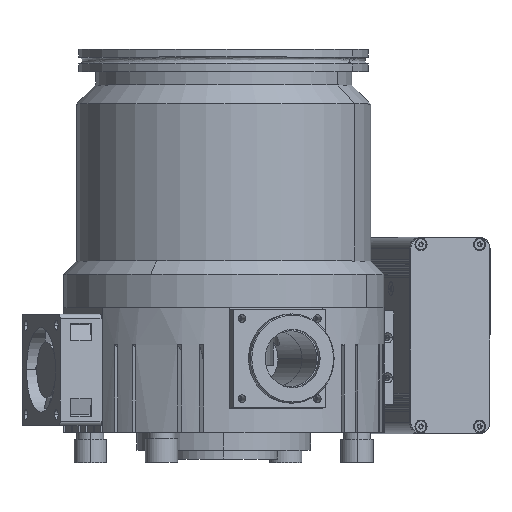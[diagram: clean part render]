
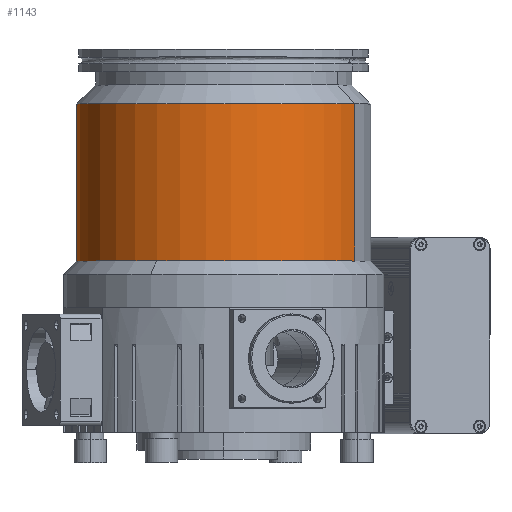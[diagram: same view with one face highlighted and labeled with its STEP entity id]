
A CAD part, top view. The second image highlights one B-rep face of the part: STEP entity #1143.
In plain terms, the highlighted cylindrical face has radius 66 mm (diameter 132 mm), a partial arc.
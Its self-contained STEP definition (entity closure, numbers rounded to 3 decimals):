
#1143 = ADVANCED_FACE ( 'NONE', ( #142187 ), #57621, .T. ) ;
#4741 = ORIENTED_EDGE ( 'NONE', *, *, #104922, .F. ) ;
#23566 = CARTESIAN_POINT ( 'NONE',  ( 0., 20.85, 0. ) ) ;
#30634 = AXIS2_PLACEMENT_3D ( 'NONE', #177406, #174435, #169392 ) ;
#34877 = LINE ( 'NONE', #133716, #109469 ) ;
#39551 = DIRECTION ( 'NONE',  ( 0., 0., -1. ) ) ;
#57621 = CYLINDRICAL_SURFACE ( 'NONE', #30634, 66. ) ;
#59546 = CARTESIAN_POINT ( 'NONE',  ( 0., 20.85, 66. ) ) ;
#63038 = DIRECTION ( 'NONE',  ( 0., -1., 0. ) ) ;
#72033 = ORIENTED_EDGE ( 'NONE', *, *, #150144, .T. ) ;
#75074 = CARTESIAN_POINT ( 'NONE',  ( 0., 91.3, 0. ) ) ;
#80909 = EDGE_CURVE ( 'NONE', #93742, #134119, #34877, .T. ) ;
#89496 = CARTESIAN_POINT ( 'NONE',  ( 0., 91.3, 66. ) ) ;
#91095 = DIRECTION ( 'NONE',  ( 0., 0., -1. ) ) ;
#91190 = CIRCLE ( 'NONE', #129142, 66. ) ;
#91710 = ORIENTED_EDGE ( 'NONE', *, *, #105425, .F. ) ;
#91908 = CARTESIAN_POINT ( 'NONE',  ( 0., 20.85, -66. ) ) ;
#93742 = VERTEX_POINT ( 'NONE', #89496 ) ;
#95726 = CARTESIAN_POINT ( 'NONE',  ( -66., 20.85, 0. ) ) ;
#101348 = EDGE_LOOP ( 'NONE', ( #110416, #72033, #162726, #4741, #91710 ) ) ;
#104922 = EDGE_CURVE ( 'NONE', #139059, #180526, #185012, .T. ) ;
#105425 = EDGE_CURVE ( 'NONE', #134119, #139059, #159983, .T. ) ;
#106784 = VECTOR ( 'NONE', #114594, 1000. ) ;
#109469 = VECTOR ( 'NONE', #165758, 1000. ) ;
#110416 = ORIENTED_EDGE ( 'NONE', *, *, #80909, .F. ) ;
#114594 = DIRECTION ( 'NONE',  ( 0., -1., 0. ) ) ;
#129142 = AXIS2_PLACEMENT_3D ( 'NONE', #75074, #186421, #91095 ) ;
#133716 = CARTESIAN_POINT ( 'NONE',  ( 0., 0., 66. ) ) ;
#134119 = VERTEX_POINT ( 'NONE', #59546 ) ;
#134759 = DIRECTION ( 'NONE',  ( 0., -1., 0. ) ) ;
#139059 = VERTEX_POINT ( 'NONE', #95726 ) ;
#142187 = FACE_OUTER_BOUND ( 'NONE', #101348, .T. ) ;
#149057 = LINE ( 'NONE', #177989, #106784 ) ;
#150144 = EDGE_CURVE ( 'NONE', #93742, #167050, #91190, .T. ) ;
#158316 = CARTESIAN_POINT ( 'NONE',  ( 0., 20.85, 0. ) ) ;
#159983 = CIRCLE ( 'NONE', #193272, 66. ) ;
#162726 = ORIENTED_EDGE ( 'NONE', *, *, #178443, .T. ) ;
#165758 = DIRECTION ( 'NONE',  ( 0., -1., 0. ) ) ;
#167050 = VERTEX_POINT ( 'NONE', #178768 ) ;
#169392 = DIRECTION ( 'NONE',  ( 0., 0., -1. ) ) ;
#174377 = DIRECTION ( 'NONE',  ( 0., 0., -1. ) ) ;
#174435 = DIRECTION ( 'NONE',  ( 0., -1., 0. ) ) ;
#177406 = CARTESIAN_POINT ( 'NONE',  ( 0., 0., 0. ) ) ;
#177989 = CARTESIAN_POINT ( 'NONE',  ( 0., 0., -66. ) ) ;
#178443 = EDGE_CURVE ( 'NONE', #167050, #180526, #149057, .T. ) ;
#178768 = CARTESIAN_POINT ( 'NONE',  ( 0., 91.3, -66. ) ) ;
#180526 = VERTEX_POINT ( 'NONE', #91908 ) ;
#185012 = CIRCLE ( 'NONE', #186641, 66. ) ;
#186421 = DIRECTION ( 'NONE',  ( 0., -1., 0. ) ) ;
#186641 = AXIS2_PLACEMENT_3D ( 'NONE', #23566, #134759, #39551 ) ;
#193272 = AXIS2_PLACEMENT_3D ( 'NONE', #158316, #63038, #174377 ) ;
